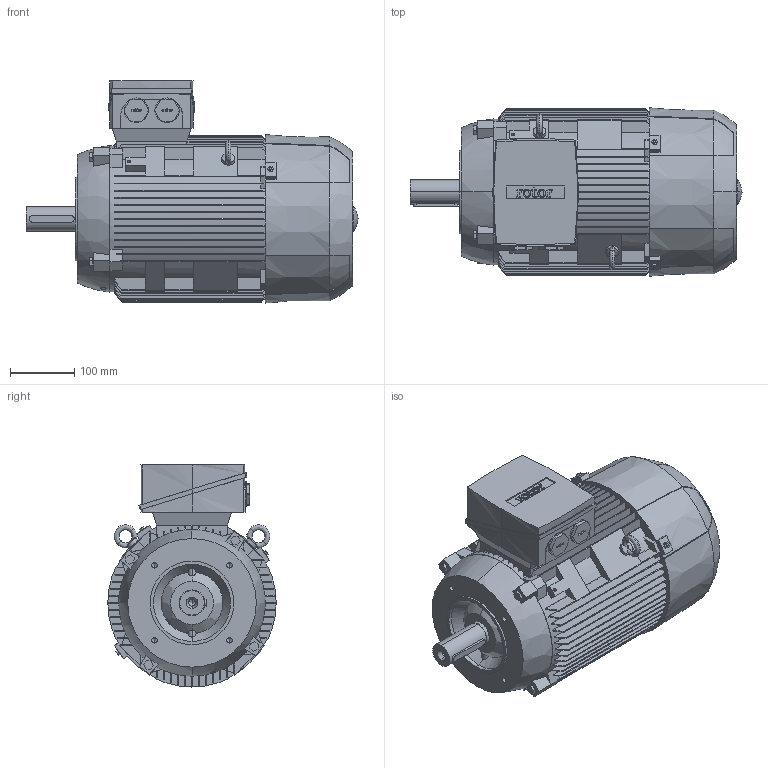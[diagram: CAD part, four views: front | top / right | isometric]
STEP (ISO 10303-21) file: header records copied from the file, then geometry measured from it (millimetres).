
FILE_DESCRIPTION (( 'STEP AP214' ), '1' );
FILE_NAME ('6RN132M06E16 IM3641.STEP', '2016-12-29T16:06:52', ( 'rbc_ict' ), ( 'Microsoft' ), 'SwSTEP 2.0', 'SolidWorks 2015', '' );
FILE_SCHEMA (( 'AUTOMOTIVE_DESIGN' ));
Length unit declared in the file: millimetre
Products named in the file (1): 6RN132M06E16 IM3641
Bounding box: 516.5 x 262 x 345.5 mm (x, y, z)
Volume: 21014109.2 mm3; surface area: 868838.5 mm2
Topology: 1 solids, 1 shells, 883 faces, 2471 edges, 1620 vertices
Faces by surface type: plane 502, bspline 180, cylinder 169, cone 32
Entity records: 42691 total; most frequent: CARTESIAN_POINT 12731, ORIENTED_EDGE 4918, DIRECTION 3711, EDGE_CURVE 2459, VERTEX_POINT 1620, LINE 1375, VECTOR 1375, AXIS2_PLACEMENT_3D 1168
